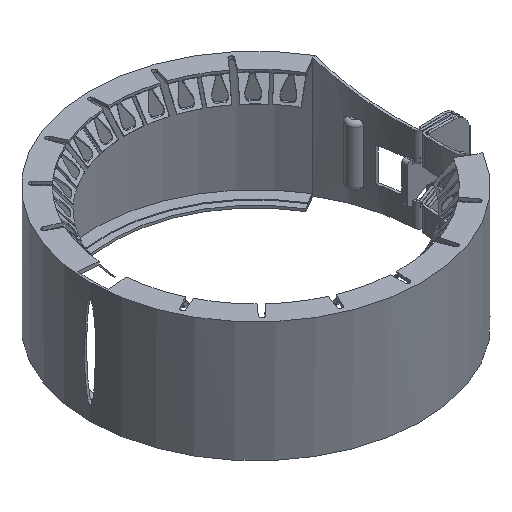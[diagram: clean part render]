
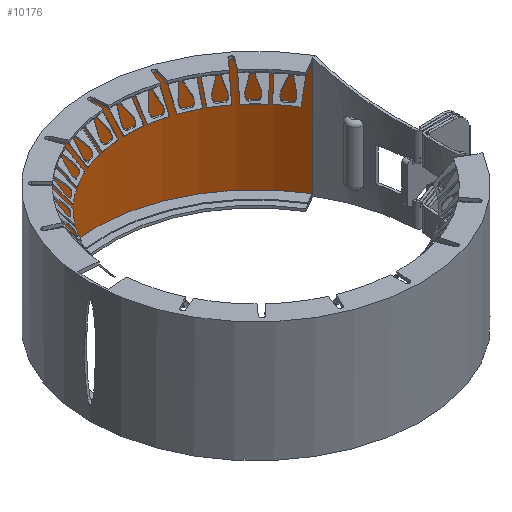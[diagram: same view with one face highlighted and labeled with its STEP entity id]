
A CAD part, isometric view. The second image highlights one B-rep face of the part: STEP entity #10176.
In plain terms, the highlighted cylindrical face has radius 55.15 mm (diameter 110.3 mm), a partial arc.
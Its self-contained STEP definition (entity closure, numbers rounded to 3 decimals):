
#1390=LINE('',#19498,#2082);
#1391=LINE('',#19499,#2083);
#2082=VECTOR('',#13347,38.8);
#2083=VECTOR('',#13348,38.8);
#2437=CIRCLE('',#10985,55.15);
#2447=CIRCLE('',#11014,55.15);
#2581=CYLINDRICAL_SURFACE('',#11015,55.15);
#3057=FACE_OUTER_BOUND('',#3588,.T.);
#3588=EDGE_LOOP('',(#9050,#9051,#9052,#9053));
#4707=VERTEX_POINT('',#19429);
#4708=VERTEX_POINT('',#19431);
#4721=VERTEX_POINT('',#19492);
#4722=VERTEX_POINT('',#19494);
#6167=EDGE_CURVE('',#4707,#4708,#2437,.T.);
#6194=EDGE_CURVE('',#4721,#4722,#2447,.T.);
#6195=EDGE_CURVE('',#4721,#4707,#1390,.T.);
#6196=EDGE_CURVE('',#4708,#4722,#1391,.T.);
#9050=ORIENTED_EDGE('',*,*,#6195,.F.);
#9051=ORIENTED_EDGE('',*,*,#6194,.T.);
#9052=ORIENTED_EDGE('',*,*,#6196,.F.);
#9053=ORIENTED_EDGE('',*,*,#6167,.F.);
#10176=ADVANCED_FACE('',(#3057),#2581,.F.);
#10985=AXIS2_PLACEMENT_3D('',#19432,#13270,#13271);
#11014=AXIS2_PLACEMENT_3D('',#19496,#13343,#13344);
#11015=AXIS2_PLACEMENT_3D('',#19497,#13345,#13346);
#13270=DIRECTION('center_axis',(0.,0.,
-1.));
#13271=DIRECTION('ref_axis',(-0.996,0.094,0.));
#13343=DIRECTION('center_axis',(0.,0.,
-1.));
#13344=DIRECTION('ref_axis',(-0.996,0.094,0.));
#13345=DIRECTION('center_axis',(0.,0.,
-1.));
#13346=DIRECTION('ref_axis',(-0.996,0.094,0.));
#13347=DIRECTION('',(0.,0.,1.));
#13348=DIRECTION('',(0.,0.,-1.));
#19429=CARTESIAN_POINT('',(-54.905,5.193,19.4));
#19431=CARTESIAN_POINT('',(47.398,28.195,19.4));
#19432=CARTESIAN_POINT('Origin',(0.,0.,
19.4));
#19492=CARTESIAN_POINT('',(-54.905,5.193,-19.4));
#19494=CARTESIAN_POINT('',(47.398,28.195,-19.4));
#19496=CARTESIAN_POINT('Origin',(0.,0.,
-19.4));
#19497=CARTESIAN_POINT('Origin',(0.,0.,
0.));
#19498=CARTESIAN_POINT('',(-54.905,5.193,-19.4));
#19499=CARTESIAN_POINT('',(47.398,28.195,-19.4));
